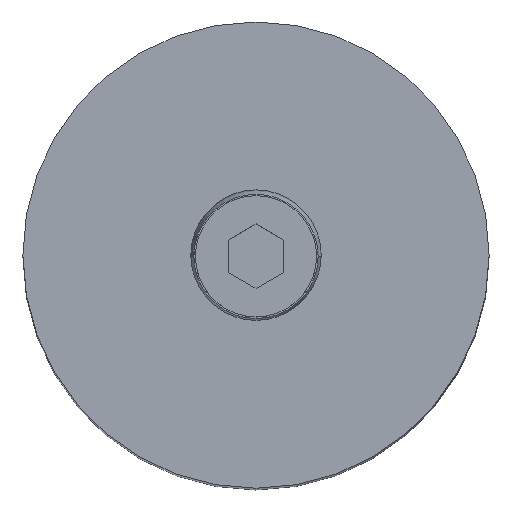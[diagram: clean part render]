
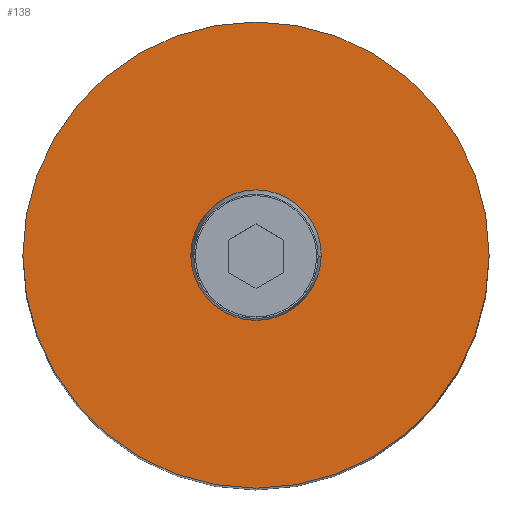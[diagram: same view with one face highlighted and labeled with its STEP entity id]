
A CAD part, top view. The second image highlights one B-rep face of the part: STEP entity #138.
In plain terms, the highlighted planar face has unit normal (0, 0, 1).
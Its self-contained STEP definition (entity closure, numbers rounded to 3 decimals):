
#107=PLANE('',#636);
#122=FACE_BOUND('',#215,.T.);
#123=FACE_BOUND('',#216,.T.);
#138=ADVANCED_FACE('',(#122,#123),#107,.T.);
#215=EDGE_LOOP('',(#297,#298));
#216=EDGE_LOOP('',(#299,#300));
#255=CIRCLE('',#628,25.);
#258=CIRCLE('',#632,25.);
#259=CIRCLE('',#634,7.);
#260=CIRCLE('',#635,7.);
#297=ORIENTED_EDGE('',*,*,#484,.T.);
#298=ORIENTED_EDGE('',*,*,#480,.T.);
#299=ORIENTED_EDGE('',*,*,#485,.F.);
#300=ORIENTED_EDGE('',*,*,#486,.F.);
#434=VERTEX_POINT('',#878);
#435=VERTEX_POINT('',#880);
#437=VERTEX_POINT('',#889);
#438=VERTEX_POINT('',#890);
#480=EDGE_CURVE('',#435,#434,#255,.T.);
#484=EDGE_CURVE('',#434,#435,#258,.T.);
#485=EDGE_CURVE('',#437,#438,#259,.T.);
#486=EDGE_CURVE('',#438,#437,#260,.T.);
#628=AXIS2_PLACEMENT_3D('',#879,#700,#701);
#632=AXIS2_PLACEMENT_3D('',#886,#709,#710);
#634=AXIS2_PLACEMENT_3D('',#888,#713,#714);
#635=AXIS2_PLACEMENT_3D('',#891,#715,#716);
#636=AXIS2_PLACEMENT_3D('',#892,#717,#718);
#700=DIRECTION('',(0.,0.,1.));
#701=DIRECTION('',(0.,1.,0.));
#709=DIRECTION('',(0.,0.,1.));
#710=DIRECTION('',(0.,-1.,0.));
#713=DIRECTION('',(0.,0.,1.));
#714=DIRECTION('',(0.,1.,0.));
#715=DIRECTION('',(0.,0.,1.));
#716=DIRECTION('',(0.,-1.,0.));
#717=DIRECTION('',(0.,0.,1.));
#718=DIRECTION('',(0.,-1.,0.));
#878=CARTESIAN_POINT('',(25.,0.,110.));
#879=CARTESIAN_POINT('',(0.,0.,110.));
#880=CARTESIAN_POINT('',(-25.,0.,110.));
#886=CARTESIAN_POINT('',(0.,0.,110.));
#888=CARTESIAN_POINT('',(0.,0.,110.));
#889=CARTESIAN_POINT('',(-7.,0.,110.));
#890=CARTESIAN_POINT('',(7.,0.,110.));
#891=CARTESIAN_POINT('',(0.,0.,110.));
#892=CARTESIAN_POINT('',(0.,0.,110.));
